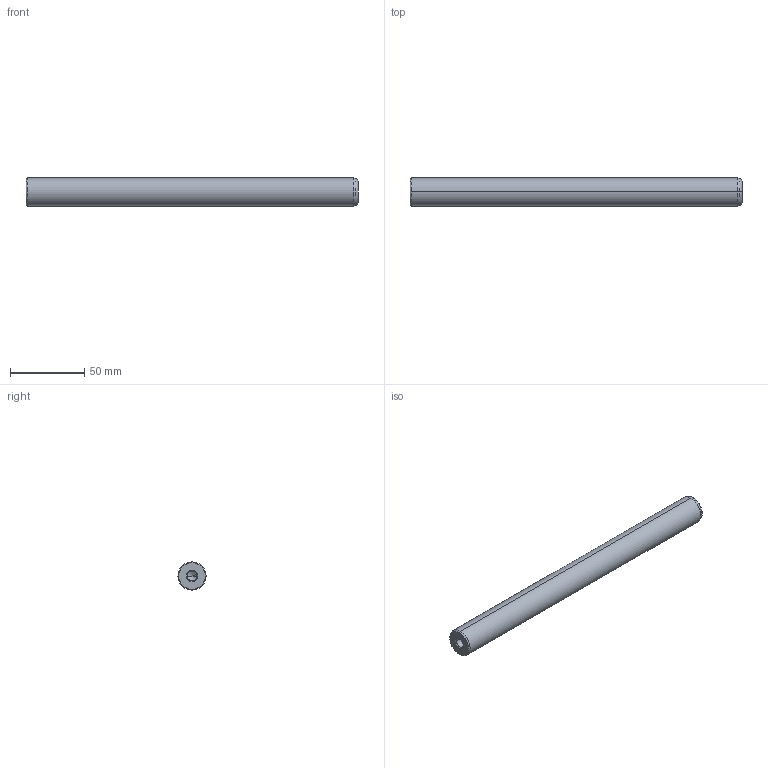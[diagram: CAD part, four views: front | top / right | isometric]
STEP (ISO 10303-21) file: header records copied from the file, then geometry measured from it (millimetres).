
FILE_DESCRIPTION(('CATIA V5 STEP Exchange'),'2;1');
FILE_NAME('C:\Users\Utente\Desktop\IO LAVORO\3D X SITO CF\X SITO\720\720-19x224.stp','2021-01-01T13:04:44+00:00',('none'),('none'),'CATIA Version 5 Release 20 GA (IN-10)','CATIA V5 STEP AP203','none');
FILE_SCHEMA(('CONFIG_CONTROL_DESIGN'));
Length unit declared in the file: millimetre
Products named in the file (1): 720-19x224
Bounding box: 224 x 19 x 19 mm (x, y, z)
Volume: 61679.4 mm3; surface area: 14835.9 mm2
Topology: 1 solids, 1 shells, 22 faces, 56 edges, 34 vertices
Faces by surface type: cone 12, cylinder 6, plane 2, torus 2
Entity records: 755 total; most frequent: CARTESIAN_POINT 216, ORIENTED_EDGE 104, DIRECTION 89, EDGE_CURVE 52, AXIS2_PLACEMENT_3D 50, VERTEX_POINT 34, CIRCLE 27, EDGE_LOOP 24
